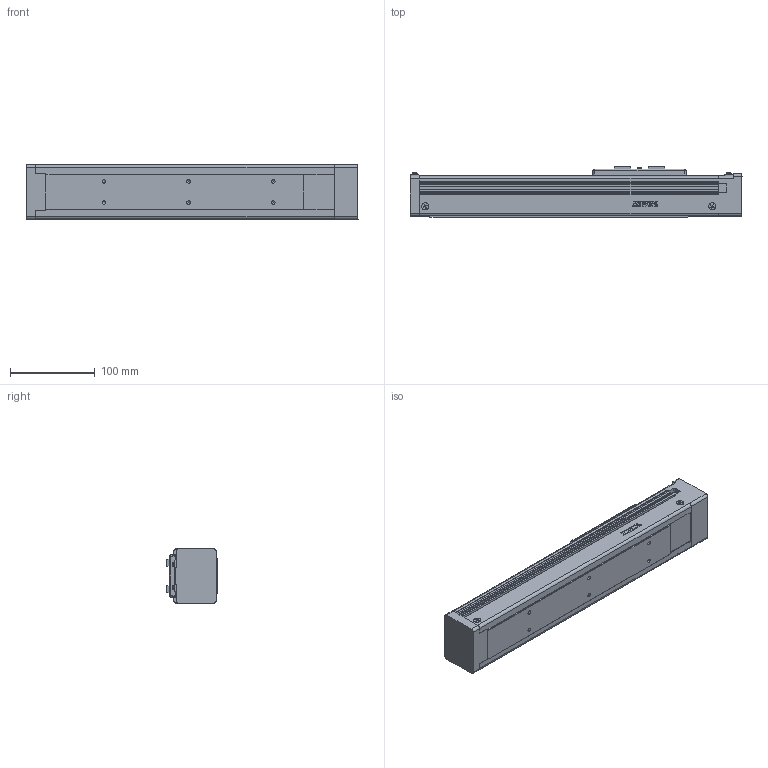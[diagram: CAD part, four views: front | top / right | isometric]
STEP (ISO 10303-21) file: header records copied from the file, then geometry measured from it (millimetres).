
FILE_DESCRIPTION(/* description */ (''),/* implementation_level */ '2;1');
FILE_NAME(/* name */ 'D:\混合母檔20191031\混和母檔\混和母檔\bin\Debug\Download\3D\KE6510C-200AF0\KE6510C-200AF0.stp',/* time_stamp */ '2019-11-04T13:53:24+08:00',/* author */ ('user'),/* organization */ (''),/* preprocessor_version */ 'ST-DEVELOPER v16.13',/* originating_system */ 'Autodesk Inventor 2018',/* authorisation */ '');
FILE_SCHEMA (('AUTOMOTIVE_DESIGN { 1 0 10303 214 3 1 1 }'));
Length unit declared in the file: millimetre
Products named in the file (3): KE6510C-200AF0; KE65-F0-BP; KE65-SL
Assembly tree (2 placements, depth 2):
  KE6510C-200AF0
    KE65-F0-BP
    KE65-SL
Bounding box: 392 x 60 x 64.57 mm (x, y, z)
Volume: 1149258.8 mm3; surface area: 139590.8 mm2
Topology: 2 solids, 17 shells, 1076 faces, 2918 edges, 1914 vertices
Faces by surface type: plane 581, cone 160, bspline 136, cylinder 135, torus 54, sphere 10
Full cylindrical faces by diameter (mm): 2.459 x8, 2.729 x4, 3 x4, 3.242 x8, 3.5 x6, 3.571 x4, 4.134 x6, 4.2 x4, 6 x1, 8 x1, 8.4 x8, 30 x1
Entity records: 39303 total; most frequent: CARTESIAN_POINT 12895, ORIENTED_EDGE 5436, DIRECTION 4882, EDGE_CURVE 2718, VERTEX_POINT 1845, LINE 1652, VECTOR 1652, AXIS2_PLACEMENT_3D 1615
